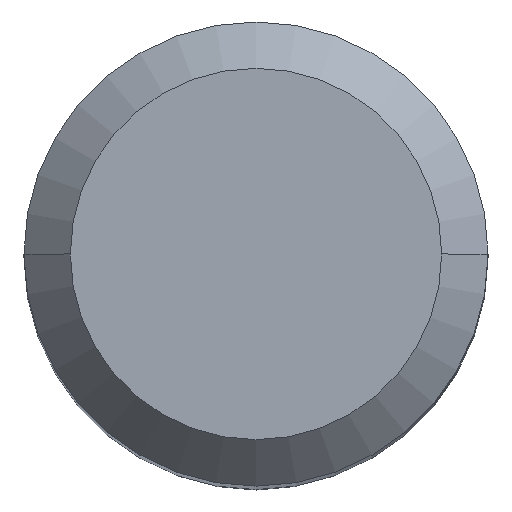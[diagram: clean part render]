
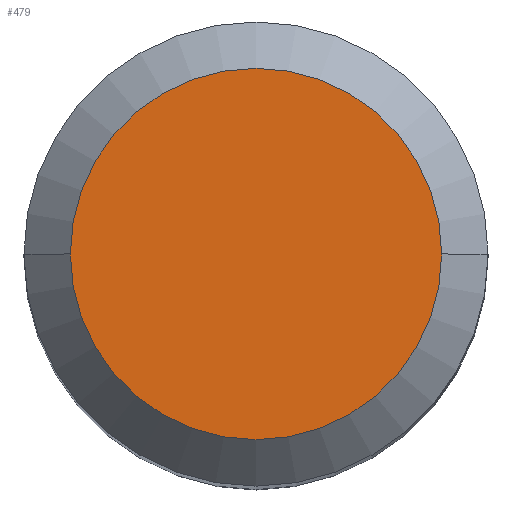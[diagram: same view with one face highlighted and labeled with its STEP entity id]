
A CAD part, top view. The second image highlights one B-rep face of the part: STEP entity #479.
In plain terms, the highlighted planar face has unit normal (0, 0, 1).
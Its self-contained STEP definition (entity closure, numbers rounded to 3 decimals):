
#36 = AXIS2_PLACEMENT_3D ( 'NONE', #558, #469, #117 ) ;
#47 = ORIENTED_EDGE ( 'NONE', *, *, #316, .F. ) ;
#71 = CARTESIAN_POINT ( 'NONE',  ( -4.8, 0., 0. ) ) ;
#81 = DIRECTION ( 'NONE',  ( -1., 0., 0. ) ) ;
#117 = DIRECTION ( 'NONE',  ( -1., 0., 0. ) ) ;
#123 = CIRCLE ( 'NONE', #36, 4.8 ) ;
#207 = VERTEX_POINT ( 'NONE', #71 ) ;
#266 = DIRECTION ( 'NONE',  ( 0., 0., 1. ) ) ;
#301 = EDGE_CURVE ( 'NONE', #330, #207, #542, .T. ) ;
#316 = EDGE_CURVE ( 'NONE', #207, #330, #123, .T. ) ;
#330 = VERTEX_POINT ( 'NONE', #472 ) ;
#349 = PLANE ( 'NONE',  #570 ) ;
#401 = AXIS2_PLACEMENT_3D ( 'NONE', #567, #516, #81 ) ;
#444 = FACE_OUTER_BOUND ( 'NONE', #518, .T. ) ;
#469 = DIRECTION ( 'NONE',  ( 0., 0., -1. ) ) ;
#472 = CARTESIAN_POINT ( 'NONE',  ( 4.8, 0., 0. ) ) ;
#479 = ADVANCED_FACE ( 'NONE', ( #444 ), #349, .T. ) ;
#486 = CARTESIAN_POINT ( 'NONE',  ( 0., 4.8, 0. ) ) ;
#516 = DIRECTION ( 'NONE',  ( 0., 0., -1. ) ) ;
#518 = EDGE_LOOP ( 'NONE', ( #47, #530 ) ) ;
#530 = ORIENTED_EDGE ( 'NONE', *, *, #301, .F. ) ;
#534 = DIRECTION ( 'NONE',  ( 1., 0., 0. ) ) ;
#542 = CIRCLE ( 'NONE', #401, 4.8 ) ;
#558 = CARTESIAN_POINT ( 'NONE',  ( 0., 0., 0. ) ) ;
#567 = CARTESIAN_POINT ( 'NONE',  ( 0., 0., 0. ) ) ;
#570 = AXIS2_PLACEMENT_3D ( 'NONE', #486, #266, #534 ) ;
